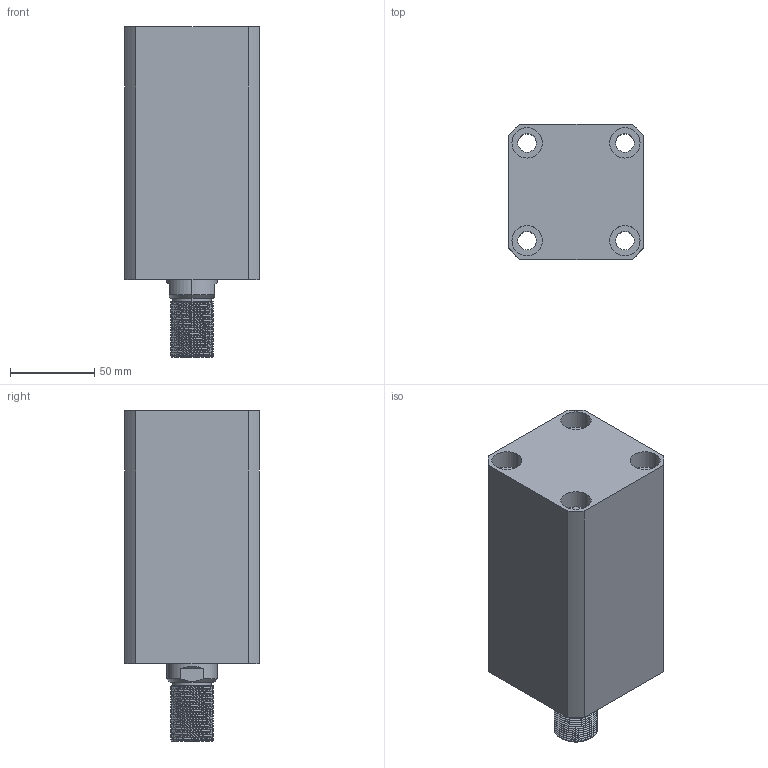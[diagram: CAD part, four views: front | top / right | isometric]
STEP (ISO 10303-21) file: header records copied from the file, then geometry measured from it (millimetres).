
FILE_DESCRIPTION (( 'STEP AP203' ), '1' );
FILE_NAME ('CHTB-SDMA50-90W.STEP', '2018-05-19T02:55:07', ( '' ), ( '' ), 'SwSTEP 2.0', 'SolidWorks 2015', '' );
FILE_SCHEMA (( 'CONFIG_CONTROL_DESIGN' ));
Length unit declared in the file: millimetre
Products named in the file (5): 掛极SDMA50-90W; M6; CHTB-SDMA50-90W; 活塞杆SDMA50-90W; CHTM-SDMA50QG
Assembly tree (5 placements, depth 2):
  CHTB-SDMA50-90W
    掛极SDMA50-90W
    活塞杆SDMA50-90W
    CHTM-SDMA50QG
    M6  x2
Bounding box: 80 x 80 x 196 mm (x, y, z)
Volume: 782000.4 mm3; surface area: 145239.7 mm2
Topology: 5 solids, 5 shells, 312 faces, 831 edges, 553 vertices
Faces by surface type: cylinder 179, plane 60, cone 29, bspline 28, torus 16
Entity records: 17949 total; most frequent: CARTESIAN_POINT 11067, ORIENTED_EDGE 1468, DIRECTION 1169, EDGE_CURVE 734, VERTEX_POINT 492, AXIS2_PLACEMENT_3D 472, EDGE_LOOP 320, ADVANCED_FACE 277
